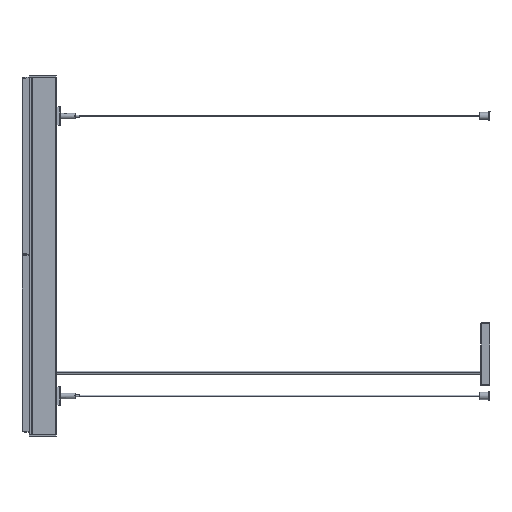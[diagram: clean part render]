
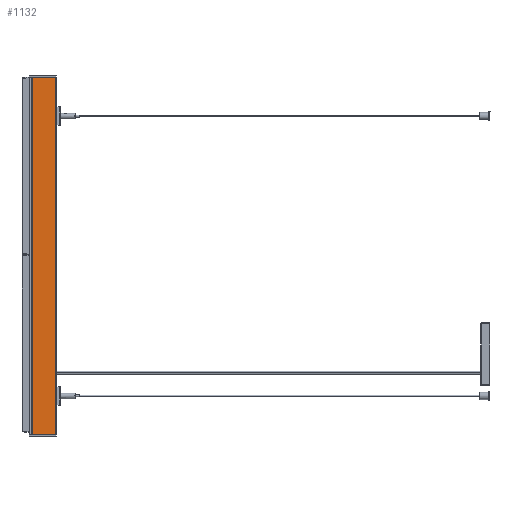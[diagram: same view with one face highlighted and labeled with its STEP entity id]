
A CAD part, left-side view. The second image highlights one B-rep face of the part: STEP entity #1132.
In plain terms, the highlighted planar face has unit normal (-1, 0, 0).
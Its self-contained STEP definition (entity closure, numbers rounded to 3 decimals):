
#1132 = ADVANCED_FACE ( 'NONE', ( #17880 ), #5645, .F. ) ;
#2154 = CARTESIAN_POINT ( 'NONE',  ( -21., 37.1, 0. ) ) ;
#2210 = VECTOR ( 'NONE', #5518, 1000. ) ;
#2744 = EDGE_CURVE ( 'NONE', #16886, #11269, #17759, .T. ) ;
#3273 = ORIENTED_EDGE ( 'NONE', *, *, #2744, .F. ) ;
#3923 = DIRECTION ( 'NONE',  ( 0., 1., 0. ) ) ;
#4405 = VERTEX_POINT ( 'NONE', #14037 ) ;
#5075 = CARTESIAN_POINT ( 'NONE',  ( -21., 37.1, 578. ) ) ;
#5518 = DIRECTION ( 'NONE',  ( 0., -1., 0. ) ) ;
#5645 = PLANE ( 'NONE',  #16024 ) ;
#7061 = DIRECTION ( 'NONE',  ( 0., -1., 0. ) ) ;
#7258 = EDGE_CURVE ( 'NONE', #11898, #11269, #14370, .T. ) ;
#7928 = CARTESIAN_POINT ( 'NONE',  ( -21., -1.2, 578. ) ) ;
#9383 = LINE ( 'NONE', #16566, #17828 ) ;
#10354 = DIRECTION ( 'NONE',  ( 1., 0., 0. ) ) ;
#11027 = DIRECTION ( 'NONE',  ( 0., 0., -1. ) ) ;
#11269 = VERTEX_POINT ( 'NONE', #17982 ) ;
#11898 = VERTEX_POINT ( 'NONE', #2154 ) ;
#12378 = LINE ( 'NONE', #5075, #20282 ) ;
#13083 = ORIENTED_EDGE ( 'NONE', *, *, #19465, .F. ) ;
#13166 = ORIENTED_EDGE ( 'NONE', *, *, #7258, .T. ) ;
#13569 = VECTOR ( 'NONE', #11027, 1000. ) ;
#14037 = CARTESIAN_POINT ( 'NONE',  ( -21., 37.1, 578. ) ) ;
#14370 = LINE ( 'NONE', #19764, #2210 ) ;
#14763 = ORIENTED_EDGE ( 'NONE', *, *, #16432, .T. ) ;
#16024 = AXIS2_PLACEMENT_3D ( 'NONE', #16627, #10354, #3923 ) ;
#16432 = EDGE_CURVE ( 'NONE', #4405, #11898, #12378, .T. ) ;
#16566 = CARTESIAN_POINT ( 'NONE',  ( -21., 37.1, 578. ) ) ;
#16627 = CARTESIAN_POINT ( 'NONE',  ( -21., 37.1, 578. ) ) ;
#16886 = VERTEX_POINT ( 'NONE', #7928 ) ;
#17726 = DIRECTION ( 'NONE',  ( 0., 0., -1. ) ) ;
#17759 = LINE ( 'NONE', #19817, #13569 ) ;
#17828 = VECTOR ( 'NONE', #7061, 1000. ) ;
#17880 = FACE_OUTER_BOUND ( 'NONE', #19798, .T. ) ;
#17982 = CARTESIAN_POINT ( 'NONE',  ( -21., -1.2, 0. ) ) ;
#19465 = EDGE_CURVE ( 'NONE', #4405, #16886, #9383, .T. ) ;
#19764 = CARTESIAN_POINT ( 'NONE',  ( -21., 37.1, 0. ) ) ;
#19798 = EDGE_LOOP ( 'NONE', ( #13166, #3273, #13083, #14763 ) ) ;
#19817 = CARTESIAN_POINT ( 'NONE',  ( -21., -1.2, 578. ) ) ;
#20282 = VECTOR ( 'NONE', #17726, 1000. ) ;
